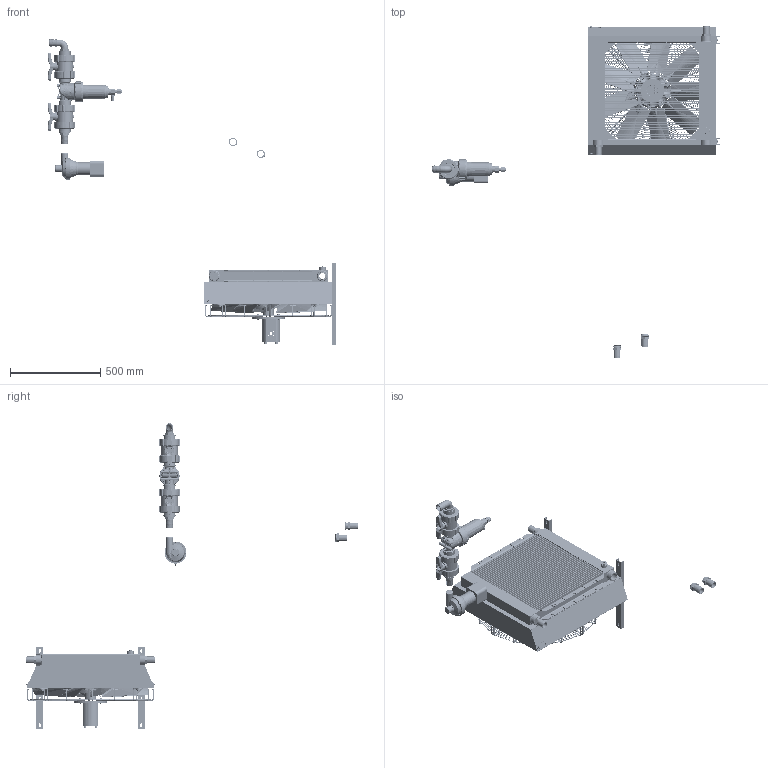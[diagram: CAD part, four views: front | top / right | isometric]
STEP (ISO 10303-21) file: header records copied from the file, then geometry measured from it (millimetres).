
FILE_DESCRIPTION(/* description */ (''),/* implementation_level */ '2;1');
FILE_NAME(/* name */ '1638080.stp',/* time_stamp */ '2025-04-02T08:51:57+02:00',/* author */ ('JJ'),/* organization */ (''),/* preprocessor_version */ 'ST-DEVELOPER v20',/* originating_system */ 'Autodesk Inventor 2025',/* authorisation */ '');
FILE_SCHEMA (('AUTOMOTIVE_DESIGN { 1 0 10303 214 3 1 1 }'));
Products named in the file (10): 1638080; 962000068; 962000075; 944600346; 944600344; 944600345; 944600347; 944600348; 944600349; 925000888
Assembly tree (19 placements, depth 2):
  1638080
    962000068
    925000888  x4
    962000075
    944600346  x2
    944600344
    944600345
    944600347  x4
    944600348
    944600349  x4
Bounding box: 1588.84 x 1834.73 x 1688.28 mm (x, y, z)
Volume: 5556036.4 mm3; surface area: 7098731.5 mm2
Topology: 50 solids, 173 shells, 4466 faces, 12692 edges, 8525 vertices
Faces by surface type: plane 1874, cylinder 1097, bspline 668, cone 487, torus 304, sphere 36
Full cylindrical faces by diameter (mm): 1.28 x2, 3 x1, 3.1 x1, 5 x8, 5.5 x1, 6 x10, 6.647 x2, 6.8 x16, 7 x44, 8 x20, 8.5 x2, 9 x4, 9.5 x1, 10 x10, 10.5 x1, 10.8 x2, 11.3 x2, 11.445 x2, 11.5 x1, 11.63 x2, 12 x6, 13 x4, 13.5 x4, 14 x1, 15 x5, 16 x10, 18 x4, 18.1 x4, 18.5 x1, 18.63 x1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
Entity records: 210117 total; most frequent: CARTESIAN_POINT 122151, ORIENTED_EDGE 18100, DIRECTION 15608, EDGE_CURVE 9665, VERTEX_POINT 6603, AXIS2_PLACEMENT_3D 5821, EDGE_LOOP 5173, LINE 3966
